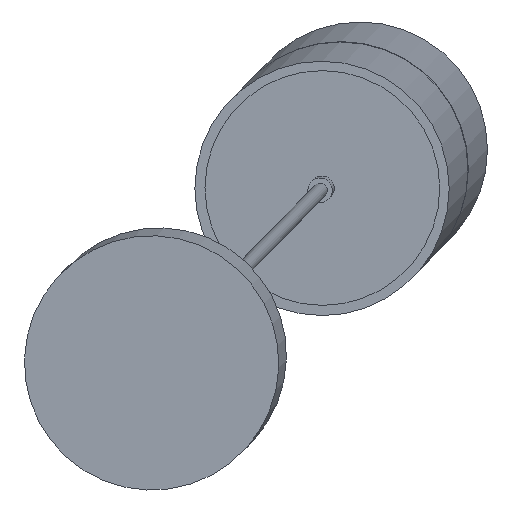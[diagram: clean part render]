
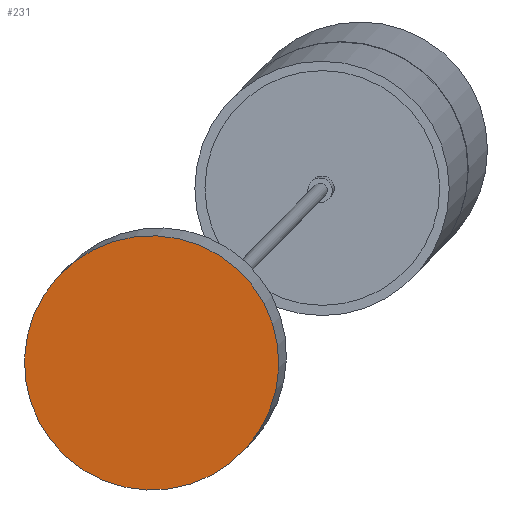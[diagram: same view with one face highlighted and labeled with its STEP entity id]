
A CAD part, top view. The second image highlights one B-rep face of the part: STEP entity #231.
In plain terms, the highlighted planar face has unit normal (-0.039, -0.042, 0.998) as drawn and (0, 0, -1) by its records, which use the part's own axes.
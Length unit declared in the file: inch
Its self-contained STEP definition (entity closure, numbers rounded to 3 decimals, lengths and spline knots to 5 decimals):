
#35=PLANE('',#328);
#69=FACE_OUTER_BOUND('',#102,.T.);
#102=EDGE_LOOP('',(#187));
#121=CIRCLE('',#327,26.);
#138=VERTEX_POINT('',#469);
#155=EDGE_CURVE('',#138,#138,#121,.T.);
#187=ORIENTED_EDGE('',*,*,#155,.T.);
#231=ADVANCED_FACE('',(#69),#35,.F.);
#327=AXIS2_PLACEMENT_3D('',#470,#406,#407);
#328=AXIS2_PLACEMENT_3D('',#471,#408,#409);
#406=DIRECTION('center_axis',(0.,0.,-1.));
#407=DIRECTION('ref_axis',(-1.,0.,0.));
#408=DIRECTION('center_axis',(0.,0.,1.));
#409=DIRECTION('ref_axis',(1.,0.,0.));
#469=CARTESIAN_POINT('',(26.,0.,0.));
#470=CARTESIAN_POINT('Origin',(0.,0.,0.));
#471=CARTESIAN_POINT('Origin',(0.,0.,0.));
